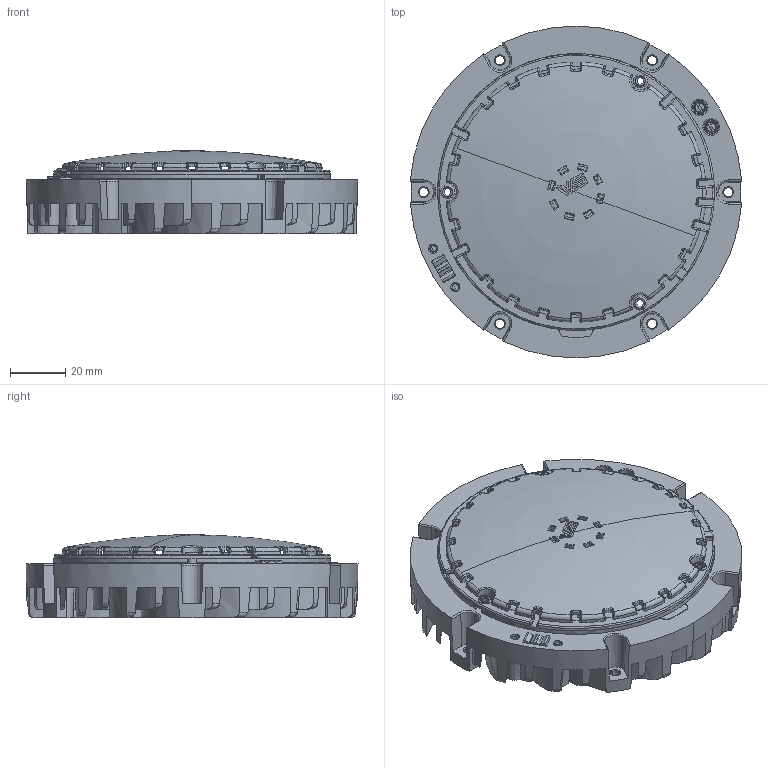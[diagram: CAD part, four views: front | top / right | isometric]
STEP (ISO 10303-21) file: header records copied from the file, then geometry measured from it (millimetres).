
FILE_DESCRIPTION(('Creo Elements/Direct Modeling STEP Export'),'2;1');
FILE_NAME('READYLINE_C10_heat_sink.stp','2020-04-20T14:06:18',(''),(''),'Creo Elements/Direct Modeling STEP processor for AP214 (Solid Model)','Creo Elements/Direct Modeling 20.0E 23-Apr-2019 (C) Parametric Technology GmbH','');
FILE_SCHEMA(('AUTOMOTIVE_DESIGN { 1 0 10303 214 1 1 1 1 }'));
Products named in the file (3): READYLINE_C10; terminal_block; READYLINE_C10_heat_sink
Assembly tree (2 placements, depth 2):
  READYLINE_C10_heat_sink
    terminal_block
    READYLINE_C10
Bounding box: 119.73 x 120 x 30.09 mm (x, y, z)
Volume: 1533.8 mm3; surface area: 117408.2 mm2
Topology: 12 solids, 13 shells, 4687 faces, 13321 edges, 8732 vertices
Faces by surface type: plane 2398, cone 999, cylinder 588, bspline 453, torus 230, sphere 19
Entity records: 199693 total; most frequent: CARTESIAN_POINT 89598, ORIENTED_EDGE 26616, DIRECTION 17279, EDGE_CURVE 13301, VERTEX_POINT 8732, AXIS2_PLACEMENT_3D 6265, EDGE_LOOP 4897, VECTOR 4749
